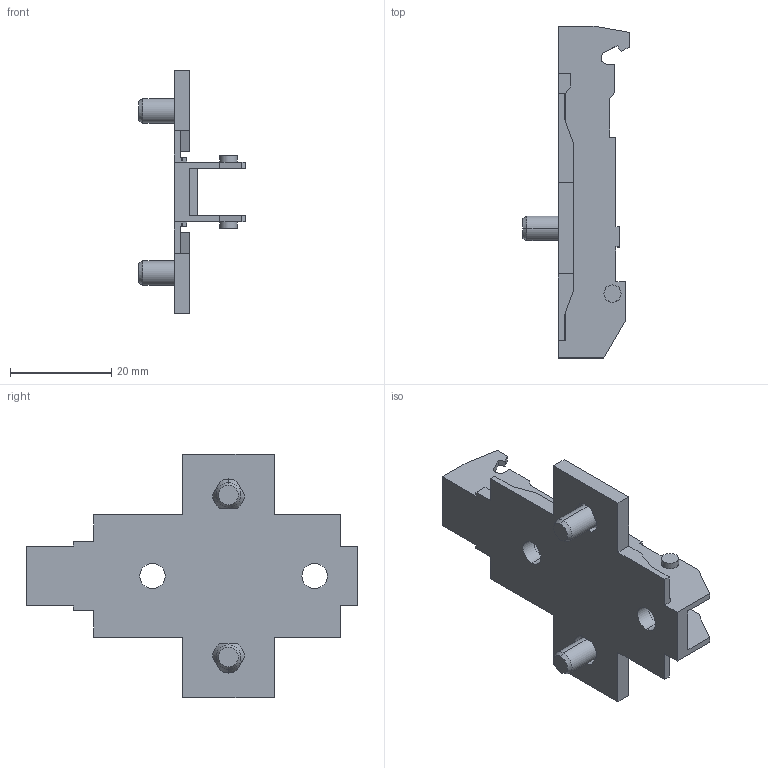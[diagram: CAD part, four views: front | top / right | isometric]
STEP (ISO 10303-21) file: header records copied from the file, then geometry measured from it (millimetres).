
FILE_DESCRIPTION (( 'STEP AP214' ), '1' );
FILE_NAME ('1D_Kreuzmontageplatte 37_32_Euro_vorgestellt 10_3,5.step', '2010-11-18T10:20:13', ( 'grass' ), ( '' ), 'SwSTEP 2.0', 'SolidWorks 2010', '' );
FILE_SCHEMA (( 'AUTOMOTIVE_DESIGN' ));
Length unit declared in the file: millimetre
Products named in the file (1): 1D_Kreuzmontageplatte 37_32_Euro_vorgestellt 10_3,5
Bounding box: 21 x 65.5 x 48 mm (x, y, z)
Volume: 6528 mm3; surface area: 7225.8 mm2
Topology: 1 solids, 1 shells, 140 faces, 400 edges, 260 vertices
Faces by surface type: plane 94, cylinder 34, cone 12
Entity records: 4642 total; most frequent: CARTESIAN_POINT 893, ORIENTED_EDGE 800, DIRECTION 742, EDGE_CURVE 400, VECTOR 300, LINE 300, VERTEX_POINT 260, AXIS2_PLACEMENT_3D 221
